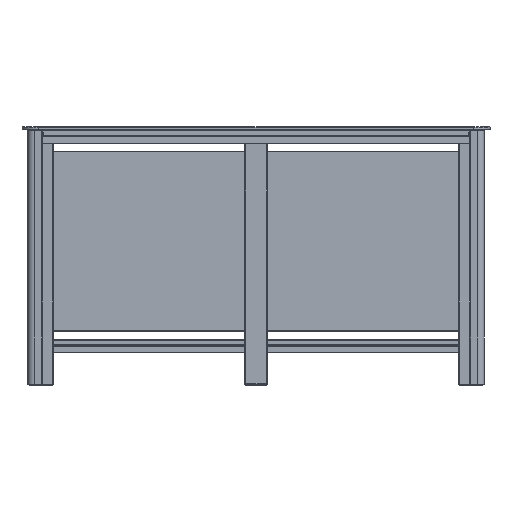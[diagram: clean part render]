
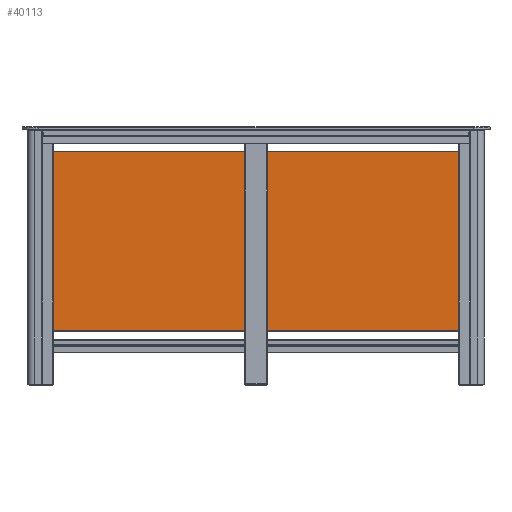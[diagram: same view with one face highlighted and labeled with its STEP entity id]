
A CAD part, left-side view. The second image highlights one B-rep face of the part: STEP entity #40113.
In plain terms, the highlighted planar face has unit normal (-1, 0, 0) as drawn and (0, 0, 1) by its records, which use the part's own axes.
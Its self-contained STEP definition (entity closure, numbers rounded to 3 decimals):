
#5178=LINE('',#65613,#9438);
#5179=LINE('',#65617,#9439);
#5180=LINE('',#65621,#9440);
#5181=LINE('',#65625,#9441);
#9438=VECTOR('',#53206,1000.);
#9439=VECTOR('',#53209,1000.);
#9440=VECTOR('',#53212,1000.);
#9441=VECTOR('',#53215,1000.);
#19093=ORIENTED_EDGE('',*,*,#25594,.T.);
#19094=ORIENTED_EDGE('',*,*,#25595,.T.);
#19095=ORIENTED_EDGE('',*,*,#25596,.T.);
#19096=ORIENTED_EDGE('',*,*,#25597,.T.);
#19097=ORIENTED_EDGE('',*,*,#25598,.T.);
#19098=ORIENTED_EDGE('',*,*,#25599,.T.);
#19099=ORIENTED_EDGE('',*,*,#25600,.T.);
#19100=ORIENTED_EDGE('',*,*,#25601,.T.);
#19101=ORIENTED_EDGE('',*,*,#25602,.T.);
#19102=ORIENTED_EDGE('',*,*,#25603,.T.);
#19103=ORIENTED_EDGE('',*,*,#25604,.T.);
#19104=ORIENTED_EDGE('',*,*,#25605,.T.);
#19105=ORIENTED_EDGE('',*,*,#25606,.T.);
#19106=ORIENTED_EDGE('',*,*,#25607,.T.);
#25594=EDGE_CURVE('',#29495,#29495,#30881,.T.);
#25595=EDGE_CURVE('',#29496,#29496,#30882,.T.);
#25596=EDGE_CURVE('',#29497,#29497,#30883,.T.);
#25597=EDGE_CURVE('',#29498,#29498,#30884,.T.);
#25598=EDGE_CURVE('',#29499,#29499,#30885,.T.);
#25599=EDGE_CURVE('',#29500,#29501,#30886,.F.);
#25600=EDGE_CURVE('',#29501,#29502,#5178,.T.);
#25601=EDGE_CURVE('',#29502,#29503,#30887,.F.);
#25602=EDGE_CURVE('',#29503,#29504,#5179,.T.);
#25603=EDGE_CURVE('',#29504,#29505,#30888,.F.);
#25604=EDGE_CURVE('',#29505,#29506,#5180,.T.);
#25605=EDGE_CURVE('',#29506,#29507,#30889,.F.);
#25606=EDGE_CURVE('',#29507,#29500,#5181,.T.);
#25607=EDGE_CURVE('',#29508,#29508,#30890,.T.);
#29495=VERTEX_POINT('',#65601);
#29496=VERTEX_POINT('',#65603);
#29497=VERTEX_POINT('',#65605);
#29498=VERTEX_POINT('',#65607);
#29499=VERTEX_POINT('',#65609);
#29500=VERTEX_POINT('',#65611);
#29501=VERTEX_POINT('',#65612);
#29502=VERTEX_POINT('',#65614);
#29503=VERTEX_POINT('',#65616);
#29504=VERTEX_POINT('',#65618);
#29505=VERTEX_POINT('',#65620);
#29506=VERTEX_POINT('',#65622);
#29507=VERTEX_POINT('',#65624);
#29508=VERTEX_POINT('',#65627);
#30881=CIRCLE('',#43663,7.);
#30882=CIRCLE('',#43664,7.);
#30883=CIRCLE('',#43665,7.);
#30884=CIRCLE('',#43666,7.);
#30885=CIRCLE('',#43667,7.);
#30886=CIRCLE('',#43668,14.);
#30887=CIRCLE('',#43669,14.);
#30888=CIRCLE('',#43670,14.);
#30889=CIRCLE('',#43671,14.);
#30890=CIRCLE('',#43672,7.);
#33453=EDGE_LOOP('',(#19093));
#33454=EDGE_LOOP('',(#19094));
#33455=EDGE_LOOP('',(#19095));
#33456=EDGE_LOOP('',(#19096));
#33457=EDGE_LOOP('',(#19097));
#33458=EDGE_LOOP('',(#19098,#19099,#19100,#19101,#19102,#19103,#19104,#19105));
#33459=EDGE_LOOP('',(#19106));
#36275=FACE_BOUND('',#33453,.T.);
#36276=FACE_BOUND('',#33454,.T.);
#36277=FACE_BOUND('',#33455,.T.);
#36278=FACE_BOUND('',#33456,.T.);
#36279=FACE_BOUND('',#33457,.T.);
#36280=FACE_BOUND('',#33458,.T.);
#36281=FACE_BOUND('',#33459,.T.);
#38108=PLANE('',#43662);
#40113=ADVANCED_FACE('',(#36275,#36276,#36277,#36278,#36279,#36280,#36281),
#38108,.F.);
#43662=AXIS2_PLACEMENT_3D('',#65599,#53192,#53193);
#43663=AXIS2_PLACEMENT_3D('',#65600,#53194,#53195);
#43664=AXIS2_PLACEMENT_3D('',#65602,#53196,#53197);
#43665=AXIS2_PLACEMENT_3D('',#65604,#53198,#53199);
#43666=AXIS2_PLACEMENT_3D('',#65606,#53200,#53201);
#43667=AXIS2_PLACEMENT_3D('',#65608,#53202,#53203);
#43668=AXIS2_PLACEMENT_3D('',#65610,#53204,#53205);
#43669=AXIS2_PLACEMENT_3D('',#65615,#53207,#53208);
#43670=AXIS2_PLACEMENT_3D('',#65619,#53210,#53211);
#43671=AXIS2_PLACEMENT_3D('',#65623,#53213,#53214);
#43672=AXIS2_PLACEMENT_3D('',#65626,#53216,#53217);
#53192=DIRECTION('',(0.,0.,-1.));
#53193=DIRECTION('',(-1.,0.,0.));
#53194=DIRECTION('',(0.,0.,-1.));
#53195=DIRECTION('',(-1.,0.,0.));
#53196=DIRECTION('',(0.,0.,-1.));
#53197=DIRECTION('',(-1.,0.,0.));
#53198=DIRECTION('',(0.,0.,-1.));
#53199=DIRECTION('',(-1.,0.,0.));
#53200=DIRECTION('',(0.,0.,-1.));
#53201=DIRECTION('',(-1.,0.,0.));
#53202=DIRECTION('',(0.,0.,-1.));
#53203=DIRECTION('',(-1.,0.,0.));
#53204=DIRECTION('',(0.,0.,-1.));
#53205=DIRECTION('',(-1.,0.,0.));
#53206=DIRECTION('',(1.,0.,0.));
#53207=DIRECTION('',(0.,0.,-1.));
#53208=DIRECTION('',(-1.,0.,0.));
#53209=DIRECTION('',(0.,1.,0.));
#53210=DIRECTION('',(0.,0.,-1.));
#53211=DIRECTION('',(-1.,0.,0.));
#53212=DIRECTION('',(-1.,0.,0.));
#53213=DIRECTION('',(0.,0.,-1.));
#53214=DIRECTION('',(-1.,0.,0.));
#53215=DIRECTION('',(0.,-1.,0.));
#53216=DIRECTION('',(0.,0.,-1.));
#53217=DIRECTION('',(-1.,0.,0.));
#65599=CARTESIAN_POINT('',(850.,350.,4.));
#65600=CARTESIAN_POINT('',(825.,250.,4.));
#65601=CARTESIAN_POINT('',(818.,250.,4.));
#65602=CARTESIAN_POINT('',(825.,-250.,4.));
#65603=CARTESIAN_POINT('',(818.,-250.,4.));
#65604=CARTESIAN_POINT('',(0.,-200.,4.));
#65605=CARTESIAN_POINT('',(-7.,-200.,4.));
#65606=CARTESIAN_POINT('',(-825.,-250.,4.));
#65607=CARTESIAN_POINT('',(-832.,-250.,4.));
#65608=CARTESIAN_POINT('',(-825.,250.,4.));
#65609=CARTESIAN_POINT('',(-832.,250.,4.));
#65610=CARTESIAN_POINT('',(-835.,-335.,4.));
#65611=CARTESIAN_POINT('',(-849.,-335.,4.));
#65612=CARTESIAN_POINT('',(-835.,-349.,4.));
#65613=CARTESIAN_POINT('',(835.,-349.,4.));
#65614=CARTESIAN_POINT('',(835.,-349.,4.));
#65615=CARTESIAN_POINT('',(835.,-335.,4.));
#65616=CARTESIAN_POINT('',(849.,-335.,4.));
#65617=CARTESIAN_POINT('',(849.,335.,4.));
#65618=CARTESIAN_POINT('',(849.,335.,4.));
#65619=CARTESIAN_POINT('',(835.,335.,4.));
#65620=CARTESIAN_POINT('',(835.,349.,4.));
#65621=CARTESIAN_POINT('',(-835.,349.,4.));
#65622=CARTESIAN_POINT('',(-835.,349.,4.));
#65623=CARTESIAN_POINT('',(-835.,335.,4.));
#65624=CARTESIAN_POINT('',(-849.,335.,4.));
#65625=CARTESIAN_POINT('',(-849.,-335.,4.));
#65626=CARTESIAN_POINT('',(0.,200.,4.));
#65627=CARTESIAN_POINT('',(-7.,200.,4.));
